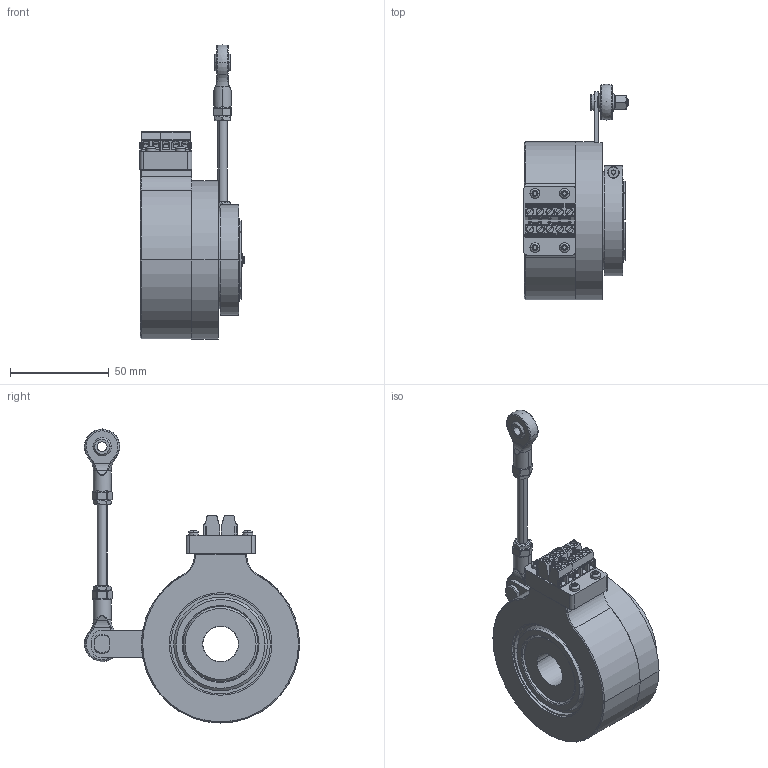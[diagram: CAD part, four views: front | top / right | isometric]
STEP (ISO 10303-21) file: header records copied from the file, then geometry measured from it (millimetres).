
FILE_DESCRIPTION (( 'STEP AP203' ), '1' );
FILE_NAME ('K80I.OXX.XXXXX.XH26818.4XRCF.step', '2025-12-09T12:12:25', ( '' ), ( '' ), 'SwSTEP 2.0', 'SolidWorks 2021', '' );
FILE_SCHEMA (( 'CONFIG_CONTROL_DESIGN' ));
Products named in the file (1): K80I.OXX.XXXXX.XH26818.4XRCF
Bounding box: 53.1 x 109.11 x 149.07 mm (x, y, z)
Volume: 228998.6 mm3; surface area: 83665.6 mm2
Topology: 49 solids, 49 shells, 3435 faces, 9425 edges, 6163 vertices
Faces by surface type: plane 2608, cylinder 589, cone 92, bspline 82, torus 50, sphere 14
Entity records: 111180 total; most frequent: CARTESIAN_POINT 23496, ORIENTED_EDGE 18774, DIRECTION 17305, EDGE_CURVE 9387, LINE 7497, VECTOR 7497, VERTEX_POINT 6159, AXIS2_PLACEMENT_3D 4904
